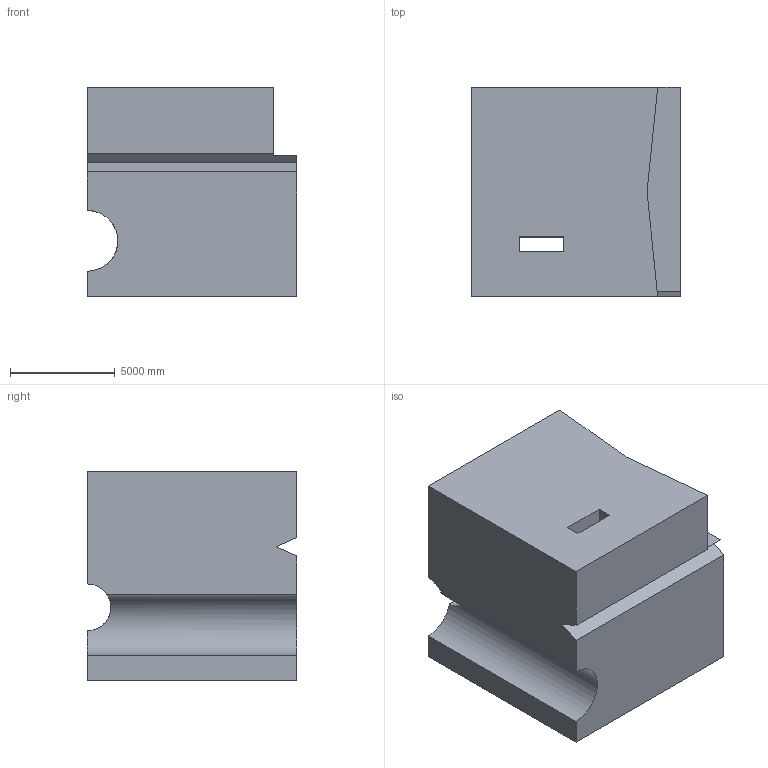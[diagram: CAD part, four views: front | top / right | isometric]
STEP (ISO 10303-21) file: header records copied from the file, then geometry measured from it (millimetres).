
FILE_DESCRIPTION (( 'STEP AP203' ), '1' );
FILE_NAME ('49.STEP', '2022-09-02T13:50:50', ( 'user' ), ( '' ), 'SwSTEP 2.0', 'SolidWorks 2021', '' );
FILE_SCHEMA (( 'CONFIG_CONTROL_DESIGN' ));
Length unit declared in the file: centimetre
Products named in the file (1): 49
Bounding box: 10000 x 10000 x 10000 mm (x, y, z)
Volume: 886040644105.6 mm3; surface area: 674771311.7 mm2
Topology: 1 solids, 1 shells, 20 faces, 54 edges, 36 vertices
Faces by surface type: plane 18, cylinder 2
Entity records: 810 total; most frequent: CARTESIAN_POINT 220, ORIENTED_EDGE 108, DIRECTION 99, EDGE_CURVE 54, LINE 49, VECTOR 49, VERTEX_POINT 36, AXIS2_PLACEMENT_3D 25
